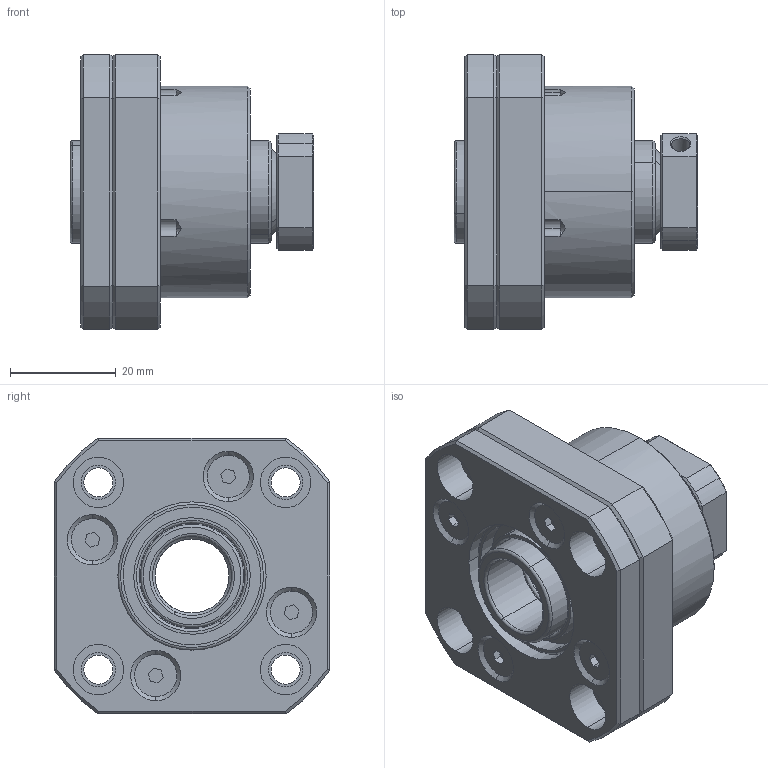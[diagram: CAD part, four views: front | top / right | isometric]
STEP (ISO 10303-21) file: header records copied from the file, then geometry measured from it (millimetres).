
FILE_DESCRIPTION (( 'STEP AP203' ), '1' );
FILE_NAME ('FK15²Õ¦XB.STEP', '2017-12-28T05:34:44', ( '' ), ( '' ), 'SwSTEP 2.0', 'SolidWorks 2017', '' );
FILE_SCHEMA (( 'CONFIG_CONTROL_DESIGN' ));
Length unit declared in the file: millimetre
Products named in the file (1): FK15組合B
Bounding box: 46 x 52 x 52 mm (x, y, z)
Surface area: 19401.5 mm2 (no closed solid volume)
Topology: 0 solids, 12 shells, 221 faces, 575 edges, 367 vertices
Faces by surface type: plane 82, cylinder 71, cone 48, torus 16, bspline 4
Entity records: 7320 total; most frequent: CARTESIAN_POINT 1784, DIRECTION 1202, ORIENTED_EDGE 1040, EDGE_CURVE 575, AXIS2_PLACEMENT_3D 483, VERTEX_POINT 367, CIRCLE 265, EDGE_LOOP 262
